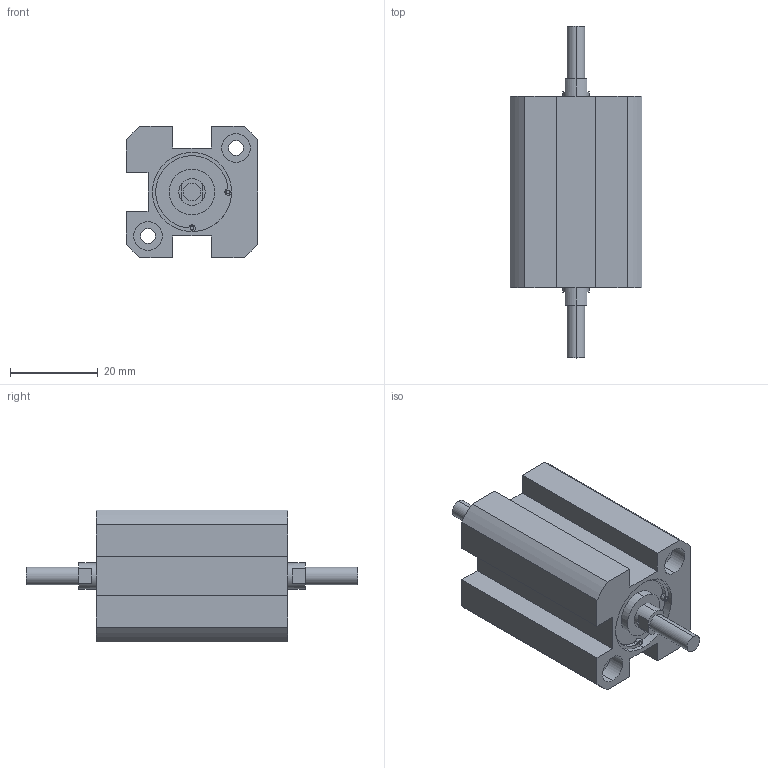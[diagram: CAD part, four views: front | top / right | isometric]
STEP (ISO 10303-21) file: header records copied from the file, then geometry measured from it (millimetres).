
FILE_DESCRIPTION (( 'STEP AP203' ), '1' );
FILE_NAME ('XG#M7-16-10.STEP', '2016-05-24T02:21:47', ( '' ), ( '' ), 'SwSTEP 2.0', 'SolidWorks 2014', '' );
FILE_SCHEMA (( 'CONFIG_CONTROL_DESIGN' ));
Length unit declared in the file: millimetre
Products named in the file (1): XG#M7-16-10
Bounding box: 30 x 75.5 x 30 mm (x, y, z)
Volume: 30888.4 mm3; surface area: 9884.2 mm2
Topology: 1 solids, 1 shells, 106 faces, 258 edges, 168 vertices
Faces by surface type: cylinder 58, plane 44, cone 4
Entity records: 3217 total; most frequent: DIRECTION 594, CARTESIAN_POINT 529, ORIENTED_EDGE 508, EDGE_CURVE 254, AXIS2_PLACEMENT_3D 233, VERTEX_POINT 168, LINE 128, VECTOR 128
